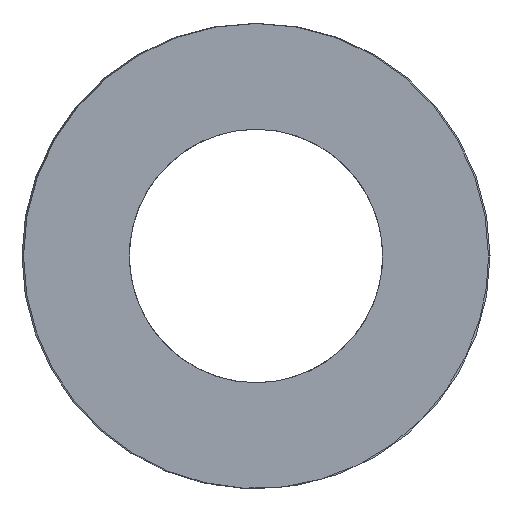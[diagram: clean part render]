
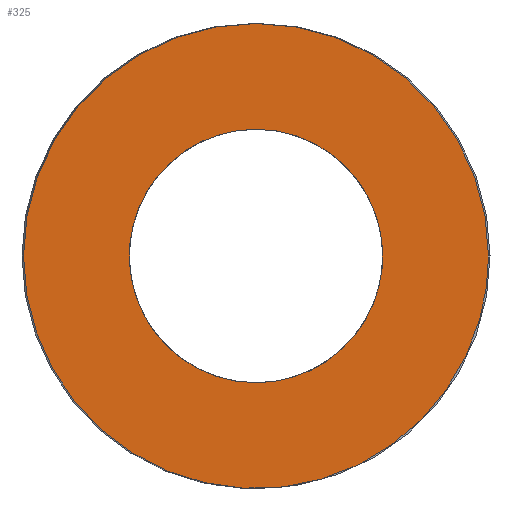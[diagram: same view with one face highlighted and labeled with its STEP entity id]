
A CAD part, left-side view. The second image highlights one B-rep face of the part: STEP entity #325.
In plain terms, the highlighted planar face has unit normal (-1, 0, 0).
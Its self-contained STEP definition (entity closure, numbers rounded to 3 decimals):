
#63=CARTESIAN_POINT('Vertex',(0.,24.4,0.)) ;
#89=CARTESIAN_POINT('Vertex',(0.,-24.4,0.)) ;
#93=CARTESIAN_POINT('Control Point',(0.,24.4,0.)) ;
#94=CARTESIAN_POINT('Control Point',(0.,24.4,-3.833)) ;
#95=CARTESIAN_POINT('Control Point',(0.,23.647,-7.665)) ;
#96=CARTESIAN_POINT('Control Point',(0.,22.142,-11.301)) ;
#97=CARTESIAN_POINT('Control Point',(0.,17.786,-17.786)) ;
#98=CARTESIAN_POINT('Control Point',(0.,11.301,-22.142)) ;
#99=CARTESIAN_POINT('Control Point',(0.,7.665,-23.647)) ;
#100=CARTESIAN_POINT('Control Point',(0.,0.,-25.153)) ;
#101=CARTESIAN_POINT('Control Point',(0.,-7.665,-23.647)) ;
#102=CARTESIAN_POINT('Control Point',(0.,-11.301,-22.142)) ;
#103=CARTESIAN_POINT('Control Point',(0.,-17.786,-17.786)) ;
#104=CARTESIAN_POINT('Control Point',(0.,-22.142,-11.301)) ;
#105=CARTESIAN_POINT('Control Point',(0.,-23.647,-7.665)) ;
#106=CARTESIAN_POINT('Control Point',(0.,-24.4,-3.833)) ;
#107=CARTESIAN_POINT('Control Point',(0.,-24.4,0.)) ;
#121=CARTESIAN_POINT('Axis2P3D Location',(0.,0.,0.)) ;
#256=CARTESIAN_POINT('Axis2P3D Location',(0.,12.2,0.)) ;
#266=CARTESIAN_POINT('Control Point',(0.,0.,-13.3)) ;
#267=CARTESIAN_POINT('Control Point',(0.,1.251,-13.3)) ;
#268=CARTESIAN_POINT('Control Point',(0.,2.501,-13.153)) ;
#269=CARTESIAN_POINT('Control Point',(0.,3.729,-12.859)) ;
#270=CARTESIAN_POINT('Control Point',(0.,6.092,-11.988)) ;
#271=CARTESIAN_POINT('Control Point',(0.,8.189,-10.593)) ;
#272=CARTESIAN_POINT('Control Point',(0.,9.15,-9.774)) ;
#273=CARTESIAN_POINT('Control Point',(0.,10.862,-7.927)) ;
#274=CARTESIAN_POINT('Control Point',(0.,12.099,-5.734)) ;
#275=CARTESIAN_POINT('Control Point',(0.,12.585,-4.569)) ;
#276=CARTESIAN_POINT('Control Point',(0.,13.275,-2.146)) ;
#277=CARTESIAN_POINT('Control Point',(0.,13.384,0.37)) ;
#278=CARTESIAN_POINT('Control Point',(0.,13.289,1.628)) ;
#279=CARTESIAN_POINT('Control Point',(0.,12.807,4.1)) ;
#280=CARTESIAN_POINT('Control Point',(0.,11.764,6.393)) ;
#281=CARTESIAN_POINT('Control Point',(0.,11.11,7.472)) ;
#282=CARTESIAN_POINT('Control Point',(0.,9.56,9.457)) ;
#283=CARTESIAN_POINT('Control Point',(0.,7.591,11.029)) ;
#284=CARTESIAN_POINT('Control Point',(0.,6.519,11.694)) ;
#285=CARTESIAN_POINT('Control Point',(0.,4.601,12.592)) ;
#286=CARTESIAN_POINT('Control Point',(0.,2.551,13.095)) ;
#287=CARTESIAN_POINT('Control Point',(0.,1.706,13.232)) ;
#288=CARTESIAN_POINT('Control Point',(0.,0.853,13.3)) ;
#289=CARTESIAN_POINT('Control Point',(0.,0.,13.3)) ;
#290=CARTESIAN_POINT('Vertex',(0.,0.,-13.3)) ;
#292=CARTESIAN_POINT('Vertex',(0.,0.,13.3)) ;
#296=CARTESIAN_POINT('Control Point',(0.,0.,13.3)) ;
#297=CARTESIAN_POINT('Control Point',(0.,-1.251,13.3)) ;
#298=CARTESIAN_POINT('Control Point',(0.,-2.501,13.153)) ;
#299=CARTESIAN_POINT('Control Point',(0.,-3.729,12.859)) ;
#300=CARTESIAN_POINT('Control Point',(0.,-6.092,11.988)) ;
#301=CARTESIAN_POINT('Control Point',(0.,-8.189,10.593)) ;
#302=CARTESIAN_POINT('Control Point',(0.,-9.15,9.774)) ;
#303=CARTESIAN_POINT('Control Point',(0.,-10.862,7.927)) ;
#304=CARTESIAN_POINT('Control Point',(0.,-12.099,5.734)) ;
#305=CARTESIAN_POINT('Control Point',(0.,-12.585,4.569)) ;
#306=CARTESIAN_POINT('Control Point',(0.,-13.275,2.146)) ;
#307=CARTESIAN_POINT('Control Point',(0.,-13.384,-0.37)) ;
#308=CARTESIAN_POINT('Control Point',(0.,-13.289,-1.628)) ;
#309=CARTESIAN_POINT('Control Point',(0.,-12.807,-4.1)) ;
#310=CARTESIAN_POINT('Control Point',(0.,-11.764,-6.393)) ;
#311=CARTESIAN_POINT('Control Point',(0.,-11.11,-7.472)) ;
#312=CARTESIAN_POINT('Control Point',(0.,-9.56,-9.457)) ;
#313=CARTESIAN_POINT('Control Point',(0.,-7.591,-11.029)) ;
#314=CARTESIAN_POINT('Control Point',(0.,-6.519,-11.694)) ;
#315=CARTESIAN_POINT('Control Point',(0.,-4.601,-12.592)) ;
#316=CARTESIAN_POINT('Control Point',(0.,-2.551,-13.095)) ;
#317=CARTESIAN_POINT('Control Point',(0.,-1.706,-13.232)) ;
#318=CARTESIAN_POINT('Control Point',(0.,-0.853,-13.3)) ;
#319=CARTESIAN_POINT('Control Point',(0.,0.,-13.3)) ;
#122=DIRECTION('Axis2P3D Direction',(1.,-0.,0.)) ;
#257=DIRECTION('Axis2P3D Direction',(-1.,0.,0.)) ;
#258=DIRECTION('Axis2P3D XDirection',(0.,1.,0.)) ;
#123=AXIS2_PLACEMENT_3D('Circle Axis2P3D',#121,#122,$) ;
#259=AXIS2_PLACEMENT_3D('Plane Axis2P3D',#256,#257,#258) ;
#262=ORIENTED_EDGE('',*,*,#108,.T.) ;
#263=ORIENTED_EDGE('',*,*,#125,.T.) ;
#322=ORIENTED_EDGE('',*,*,#294,.T.) ;
#323=ORIENTED_EDGE('',*,*,#320,.T.) ;
#324=FACE_BOUND('',#321,.T.) ;
#325=ADVANCED_FACE('392-B50-203',(#264,#324),#260,.T.) ;
#92=B_SPLINE_CURVE_WITH_KNOTS('',5,(#93,#94,#95,#96,#97,#98,#99,#100,#101,#102,#103,#104,#105,#106,#107),.UNSPECIFIED.,.F.,.U.,(6,3,3,3,6),(-38.327,-19.164,0.,19.164,38.327),.UNSPECIFIED.) ;
#265=B_SPLINE_CURVE_WITH_KNOTS('',5,(#266,#267,#268,#269,#270,#271,#272,#273,#274,#275,#276,#277,#278,#279,#280,#281,#282,#283,#284,#285,#286,#287,#288,#289),.UNSPECIFIED.,.F.,.U.,(6,3,3,3,3,3,3,6),(0.,8.843,17.686,26.53,35.373,44.216,53.059,59.09),.UNSPECIFIED.) ;
#295=B_SPLINE_CURVE_WITH_KNOTS('',5,(#296,#297,#298,#299,#300,#301,#302,#303,#304,#305,#306,#307,#308,#309,#310,#311,#312,#313,#314,#315,#316,#317,#318,#319),.UNSPECIFIED.,.F.,.U.,(6,3,3,3,3,3,3,6),(0.,8.843,17.686,26.53,35.373,44.216,53.059,59.09),.UNSPECIFIED.) ;
#124=CIRCLE('generated circle',#123,24.4) ;
#108=EDGE_CURVE('',#64,#90,#92,.T.) ;
#125=EDGE_CURVE('',#90,#64,#124,.F.) ;
#294=EDGE_CURVE('',#291,#293,#265,.T.) ;
#320=EDGE_CURVE('',#293,#291,#295,.T.) ;
#261=EDGE_LOOP('',(#262,#263)) ;
#321=EDGE_LOOP('',(#322,#323)) ;
#264=FACE_OUTER_BOUND('',#261,.T.) ;
#260=PLANE('Plane',#259) ;
#64=VERTEX_POINT('',#63) ;
#90=VERTEX_POINT('',#89) ;
#291=VERTEX_POINT('',#290) ;
#293=VERTEX_POINT('',#292) ;
